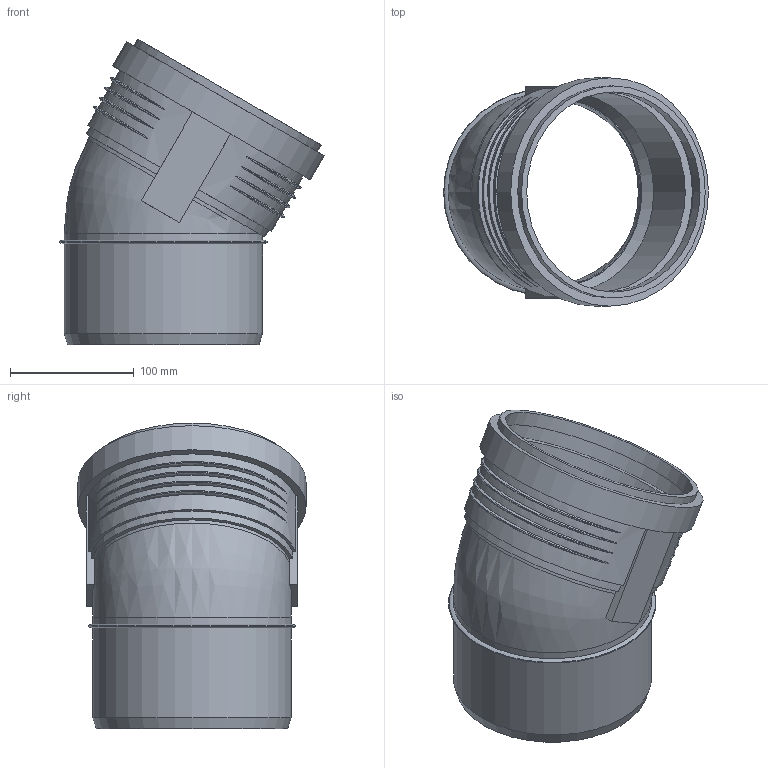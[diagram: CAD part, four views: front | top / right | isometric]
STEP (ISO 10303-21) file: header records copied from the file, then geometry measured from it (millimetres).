
FILE_DESCRIPTION(/* description */ (''),/* implementation_level */ '2;1');
FILE_NAME(/* name */ 'Z:\Geberit\Export\NewStep\390721.stp',/* time_stamp */ '2014-04-02T08:16:36+02:00',/* author */ ('ML'),/* organization */ (''),/* preprocessor_version */ 'ST-DEVELOPER v15.2',/* originating_system */ 'Autodesk Inventor 2014',/* authorisation */ '');
FILE_SCHEMA (('AUTOMOTIVE_DESIGN { 1 0 10303 214 3 1 1 }'));
Length unit declared in the file: millimetre
Products named in the file (3): 861597; 861560; 390721
Bounding box: 214.01 x 184.5 x 247.06 mm (x, y, z)
Volume: 630538.7 mm3; surface area: 263302.3 mm2
Topology: 2 solids, 2 shells, 68 faces, 162 edges, 109 vertices
Faces by surface type: torus 28, plane 19, cylinder 18, cone 2, bspline 1
Full cylindrical faces by diameter (mm): 149.85 x2, 150.65 x1, 160.25 x4, 161.7 x2, 171.3 x1, 174.9 x1, 184.5 x1
Entity records: 2726 total; most frequent: CARTESIAN_POINT 1150, DIRECTION 290, ORIENTED_EDGE 278, EDGE_CURVE 139, AXIS2_PLACEMENT_3D 127, VERTEX_POINT 106, EDGE_LOOP 103, STYLED_ITEM 70
